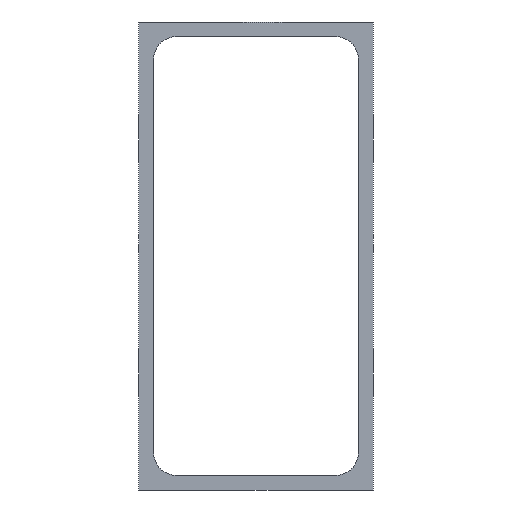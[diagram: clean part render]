
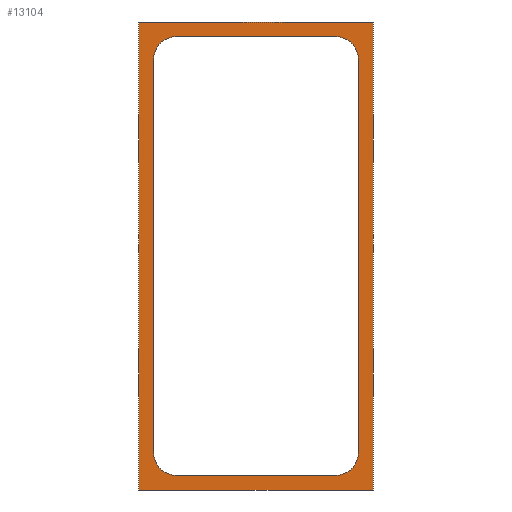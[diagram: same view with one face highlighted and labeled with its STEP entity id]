
A CAD part, front view. The second image highlights one B-rep face of the part: STEP entity #13104.
In plain terms, the highlighted planar face has unit normal (0, -1, 0).
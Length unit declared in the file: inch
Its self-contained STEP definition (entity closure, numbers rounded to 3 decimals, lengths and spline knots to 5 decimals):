
#1132=FACE_BOUND('',#3404,.T.);
#1142=PLANE('',#14814);
#1714=FACE_OUTER_BOUND('',#3403,.T.);
#3403=EDGE_LOOP('',(#11959,#11960,#11961,#11962));
#3404=EDGE_LOOP('',(#11963,#11964,#11965,#11966,#11967,#11968,#11969,#11970));
#3407=LINE('',#18807,#3993);
#3411=LINE('',#19005,#3997);
#3415=LINE('',#19389,#4001);
#3420=LINE('',#19587,#4006);
#3979=LINE('',#22195,#4565);
#3983=LINE('',#22203,#4569);
#3986=LINE('',#22209,#4572);
#3989=LINE('',#22214,#4575);
#3993=VECTOR('',#14827,0.3937);
#3997=VECTOR('',#15025,0.3937);
#4001=VECTOR('',#15409,0.3937);
#4006=VECTOR('',#15608,0.3937);
#4565=VECTOR('',#18773,0.3937);
#4569=VECTOR('',#18779,0.3937);
#4572=VECTOR('',#18784,0.3937);
#4575=VECTOR('',#18789,0.3937);
#4577=CIRCLE('',#13120,0.0975);
#4672=CIRCLE('',#13217,0.0975);
#4860=CIRCLE('',#13407,0.0975);
#4955=CIRCLE('',#13504,0.0975);
#5701=VERTEX_POINT('',#18797);
#5702=VERTEX_POINT('',#18798);
#5705=VERTEX_POINT('',#18806);
#5800=VERTEX_POINT('',#18998);
#5802=VERTEX_POINT('',#19004);
#5990=VERTEX_POINT('',#19382);
#5992=VERTEX_POINT('',#19388);
#6087=VERTEX_POINT('',#19580);
#6833=VERTEX_POINT('',#22193);
#6834=VERTEX_POINT('',#22194);
#6837=VERTEX_POINT('',#22202);
#6839=VERTEX_POINT('',#22208);
#6841=EDGE_CURVE('',#5701,#5702,#4577,.T.);
#6845=EDGE_CURVE('',#5702,#5705,#3407,.T.);
#6941=EDGE_CURVE('',#5705,#5800,#4672,.T.);
#6944=EDGE_CURVE('',#5800,#5802,#3411,.T.);
#7133=EDGE_CURVE('',#5802,#5990,#4860,.T.);
#7136=EDGE_CURVE('',#5990,#5992,#3415,.T.);
#7232=EDGE_CURVE('',#5992,#6087,#4955,.T.);
#7236=EDGE_CURVE('',#6087,#5701,#3420,.T.);
#8539=EDGE_CURVE('',#6833,#6834,#3979,.T.);
#8543=EDGE_CURVE('',#6837,#6833,#3983,.T.);
#8546=EDGE_CURVE('',#6839,#6837,#3986,.T.);
#8549=EDGE_CURVE('',#6834,#6839,#3989,.T.);
#11959=ORIENTED_EDGE('',*,*,#8549,.F.);
#11960=ORIENTED_EDGE('',*,*,#8539,.F.);
#11961=ORIENTED_EDGE('',*,*,#8543,.F.);
#11962=ORIENTED_EDGE('',*,*,#8546,.F.);
#11963=ORIENTED_EDGE('',*,*,#6841,.F.);
#11964=ORIENTED_EDGE('',*,*,#7236,.F.);
#11965=ORIENTED_EDGE('',*,*,#7232,.F.);
#11966=ORIENTED_EDGE('',*,*,#7136,.F.);
#11967=ORIENTED_EDGE('',*,*,#7133,.F.);
#11968=ORIENTED_EDGE('',*,*,#6944,.F.);
#11969=ORIENTED_EDGE('',*,*,#6941,.F.);
#11970=ORIENTED_EDGE('',*,*,#6845,.F.);
#13104=ADVANCED_FACE('',(#1714,#1132),#1142,.F.);
#13120=AXIS2_PLACEMENT_3D('',#18799,#14819,#14820);
#13217=AXIS2_PLACEMENT_3D('',#18999,#15018,#15019);
#13407=AXIS2_PLACEMENT_3D('',#19383,#15402,#15403);
#13504=AXIS2_PLACEMENT_3D('',#19581,#15600,#15601);
#14814=AXIS2_PLACEMENT_3D('',#22217,#18793,#18794);
#14819=DIRECTION('center_axis',(0.,-1.,0.));
#14820=DIRECTION('ref_axis',(-0.707,0.,-0.707));
#14827=DIRECTION('',(1.,0.,0.));
#15018=DIRECTION('center_axis',(0.,-1.,0.));
#15019=DIRECTION('ref_axis',(0.707,0.,-0.707));
#15025=DIRECTION('',(0.,0.,1.));
#15402=DIRECTION('center_axis',(0.,-1.,0.));
#15403=DIRECTION('ref_axis',(0.707,0.,0.707));
#15409=DIRECTION('',(-1.,0.,0.));
#15600=DIRECTION('center_axis',(0.,-1.,0.));
#15601=DIRECTION('ref_axis',(-0.707,0.,0.707));
#15608=DIRECTION('',(0.,0.,-1.));
#18773=DIRECTION('',(1.,0.,0.));
#18779=DIRECTION('',(0.,0.,1.));
#18784=DIRECTION('',(-1.,0.,0.));
#18789=DIRECTION('',(0.,0.,-1.));
#18793=DIRECTION('center_axis',(0.,1.,0.));
#18794=DIRECTION('ref_axis',(1.,0.,0.));
#18797=CARTESIAN_POINT('',(-0.4375,0.,-0.84));
#18798=CARTESIAN_POINT('',(-0.34,0.,-0.9375));
#18799=CARTESIAN_POINT('Origin',(-0.34,0.,-0.84));
#18806=CARTESIAN_POINT('',(0.34,0.,-0.9375));
#18807=CARTESIAN_POINT('',(0.4375,0.,-0.9375));
#18998=CARTESIAN_POINT('',(0.4375,0.,-0.84));
#18999=CARTESIAN_POINT('Origin',(0.34,0.,-0.84));
#19004=CARTESIAN_POINT('',(0.4375,0.,0.84));
#19005=CARTESIAN_POINT('',(0.4375,0.,0.9375));
#19382=CARTESIAN_POINT('',(0.34,0.,0.9375));
#19383=CARTESIAN_POINT('Origin',(0.34,0.,0.84));
#19388=CARTESIAN_POINT('',(-0.34,0.,0.9375));
#19389=CARTESIAN_POINT('',(-0.4375,0.,0.9375));
#19580=CARTESIAN_POINT('',(-0.4375,0.,0.84));
#19581=CARTESIAN_POINT('Origin',(-0.34,0.,0.84));
#19587=CARTESIAN_POINT('',(-0.4375,0.,-0.9375));
#22193=CARTESIAN_POINT('',(-0.5,0.,1.));
#22194=CARTESIAN_POINT('',(0.5,0.,1.));
#22195=CARTESIAN_POINT('',(-0.5,0.,1.));
#22202=CARTESIAN_POINT('',(-0.5,0.,-1.));
#22203=CARTESIAN_POINT('',(-0.5,0.,-1.));
#22208=CARTESIAN_POINT('',(0.5,0.,-1.));
#22209=CARTESIAN_POINT('',(0.5,0.,-1.));
#22214=CARTESIAN_POINT('',(0.5,0.,1.));
#22217=CARTESIAN_POINT('Origin',(0.,0.,0.));
